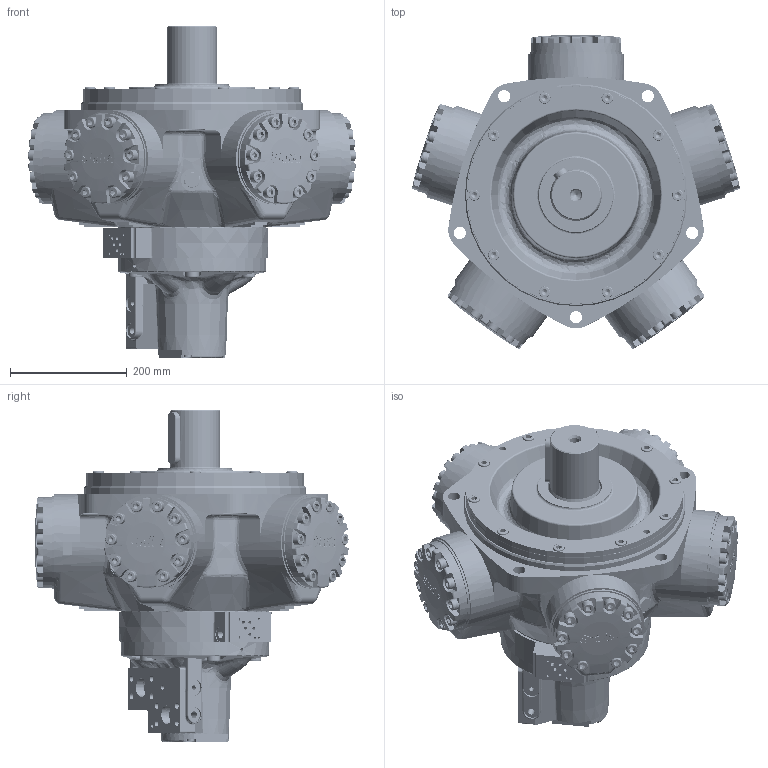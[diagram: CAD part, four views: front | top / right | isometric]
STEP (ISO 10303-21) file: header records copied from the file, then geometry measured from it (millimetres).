
FILE_DESCRIPTION((''),'2;1');
FILE_NAME('I:\3D Step files\Staffa\HMC125 P FM3 CS 71.stp','2009-04-20T11:49:37',('mnorman'),(''),'Autodesk Inventor 2009','Autodesk Inventor 2009','');
FILE_SCHEMA(('AUTOMOTIVE_DESIGN { 1 0 10303 214 1 1 1 1 }'));
Length unit declared in the file: millimetre
Products named in the file (1): Part5
Bounding box: 562.18 x 537.45 x 569.42 mm (x, y, z)
Volume: 25954916.4 mm3; surface area: 2143985.3 mm2
Topology: 79 solids, 79 shells, 3862 faces, 9021 edges, 5635 vertices
Faces by surface type: plane 1348, bspline 1320, cylinder 740, cone 251, torus 188, sphere 15
Full cylindrical faces by diameter (mm): 4 x1, 6.2 x1, 7.938 x4, 8.016 x1, 11.328 x25, 11.8 x2, 11.913 x4, 12 x1, 12.7 x60, 13.5 x25, 15.875 x5, 16.51 x1, 16.7 x5, 19.05 x61, 20.6 x25, 21 x5, 22 x10, 23.825 x5, 24.892 x2, 27.495 x1, 28.575 x5, 28.677 x5, 31.75 x2, 32 x2, 38.1 x3, 38.176 x5, 65.1 x1, 67 x1, 68.58 x1, 85.001 x1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
Entity records: 177441 total; most frequent: CARTESIAN_POINT 100134, ORIENTED_EDGE 15456, DIRECTION 12627, EDGE_CURVE 7728, VERTEX_POINT 5295, EDGE_LOOP 5179, AXIS2_PLACEMENT_3D 4866, FACE_OUTER_BOUND 3854
